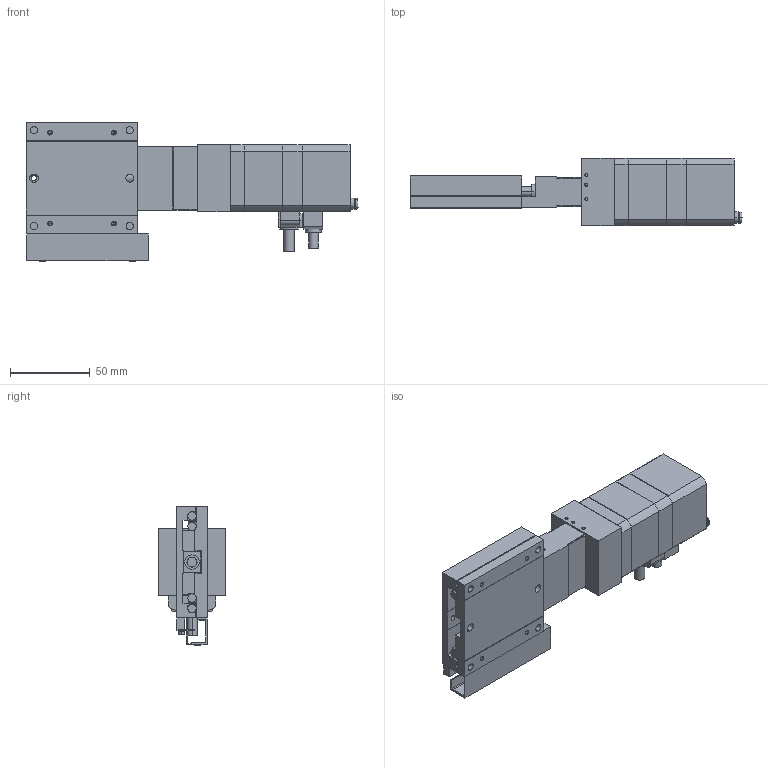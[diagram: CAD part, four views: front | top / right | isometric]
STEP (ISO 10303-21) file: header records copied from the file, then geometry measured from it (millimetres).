
FILE_DESCRIPTION(('STEP AP203'),'1');
FILE_NAME('C:/3D-Trans/3D_PG715T-R□-MA+240118.step','2024-02-26T08:30:57',(' '),(' '),'Spatial InterOp 3D',' ',' ');
FILE_SCHEMA(('CONFIG_CONTROL_DESIGN'));
Length unit declared in the file: millimetre
Products named in the file (6): 1; 2; 3; 4; 5; 6
Bounding box: 208 x 42 x 87.4 mm (x, y, z)
Volume: 262563.8 mm3; surface area: 73035.7 mm2
Topology: 6 solids, 6 shells, 632 faces, 1595 edges, 999 vertices
Faces by surface type: plane 315, cylinder 209, cone 104, torus 4
Entity records: 19115 total; most frequent: DIRECTION 3393, CARTESIAN_POINT 3268, ORIENTED_EDGE 3134, EDGE_CURVE 1567, AXIS2_PLACEMENT_3D 1194, LINE 1005, VECTOR 1005, VERTEX_POINT 999
